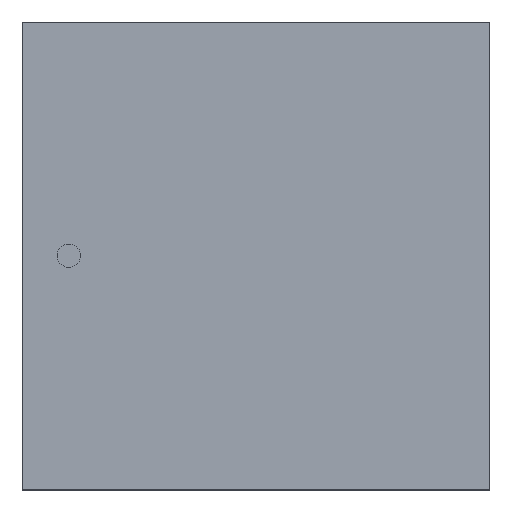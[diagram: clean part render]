
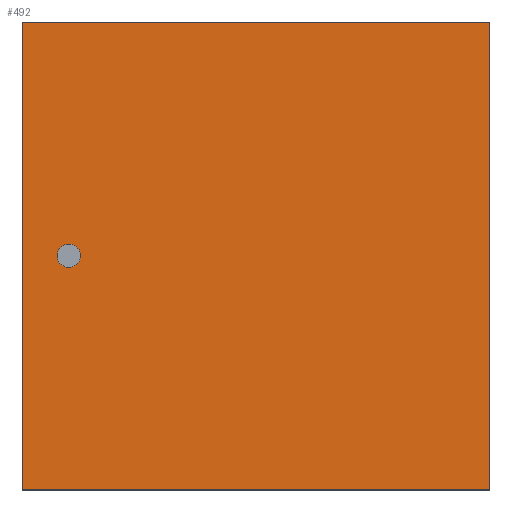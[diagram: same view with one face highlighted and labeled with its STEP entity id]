
A CAD part, top view. The second image highlights one B-rep face of the part: STEP entity #492.
In plain terms, the highlighted planar face has unit normal (0, 0, 1).
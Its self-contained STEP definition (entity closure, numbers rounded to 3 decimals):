
#268=CARTESIAN_POINT('',(1.6,-1.6,1.295));
#267=VERTEX_POINT('',#268);
#278=CARTESIAN_POINT('',(-1.6,-1.6,1.295));
#277=VERTEX_POINT('',#278);
#276=EDGE_CURVE('',#277,#267,#281,.T.);
#281=LINE('',#278,#283);
#283=VECTOR('',#284,3.2);
#284=DIRECTION('',(1.0,0.0,0.0));
#317=CARTESIAN_POINT('',(1.6,1.6,1.295));
#316=VERTEX_POINT('',#317);
#325=EDGE_CURVE('',#267,#316,#330,.T.);
#330=LINE('',#268,#332);
#332=VECTOR('',#333,3.2);
#333=DIRECTION('',(0.0,1.0,0.0));
#366=CARTESIAN_POINT('',(-1.6,1.6,1.295));
#365=VERTEX_POINT('',#366);
#374=EDGE_CURVE('',#316,#365,#379,.T.);
#379=LINE('',#317,#381);
#381=VECTOR('',#382,3.2);
#382=DIRECTION('',(-1.0,0.0,0.0));
#423=EDGE_CURVE('',#365,#277,#428,.T.);
#428=LINE('',#366,#430);
#430=VECTOR('',#431,3.2);
#431=DIRECTION('',(0.0,-1.0,0.0));
#492=ADVANCED_FACE('',(#498),#493,.T.);
#493=PLANE('',#494);
#494=AXIS2_PLACEMENT_3D('',#495,#496,#497);
#495=CARTESIAN_POINT('',(-1.6,-1.6,1.295));
#496=DIRECTION('',(0.0,0.0,1.0));
#497=DIRECTION('',(0.,1.,0.));
#498=FACE_OUTER_BOUND('',#499,.T.);
#499=EDGE_LOOP('',(#500,#510,#520,#530));
#500=ORIENTED_EDGE('',*,*,#276,.T.);
#510=ORIENTED_EDGE('',*,*,#325,.T.);
#520=ORIENTED_EDGE('',*,*,#374,.T.);
#530=ORIENTED_EDGE('',*,*,#423,.T.);
